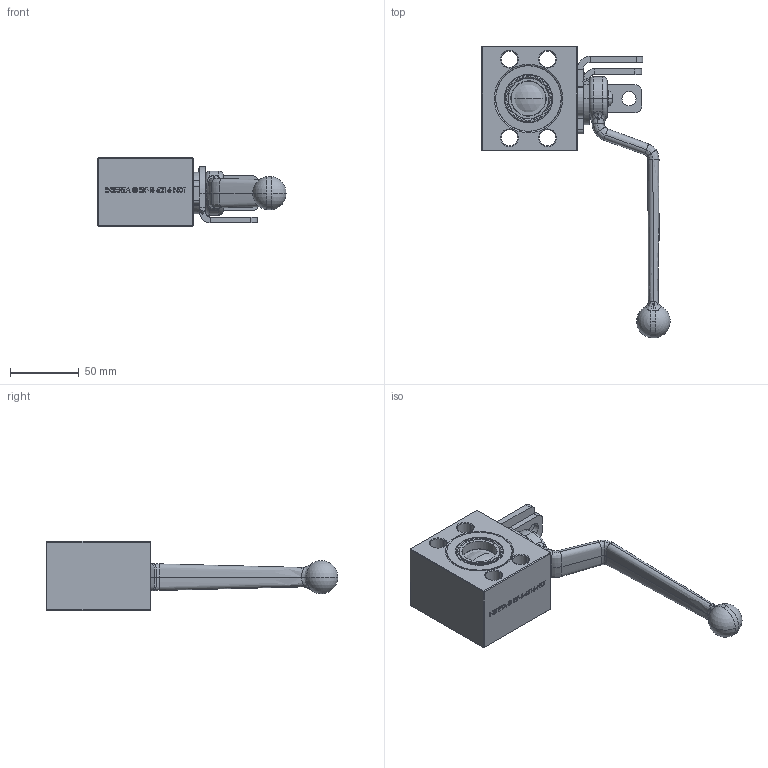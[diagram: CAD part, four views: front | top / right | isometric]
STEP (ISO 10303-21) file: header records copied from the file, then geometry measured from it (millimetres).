
FILE_DESCRIPTION (( 'STEP AP214' ), '1' );
FILE_NAME ('IBF-B-6216-N-D-T-Closed.STEP', '2026-02-16T15:42:22', ( '' ), ( '' ), 'SwSTEP 2.0', 'SolidWorks 2025', '' );
FILE_SCHEMA (( 'AUTOMOTIVE_DESIGN' ));
Length unit declared in the file: inch
Products named in the file (1): IBF-B-6216-N-D-T-Closed
Bounding box: 136.99 x 212.22 x 50.42 mm (x, y, z)
Volume: 270801.8 mm3; surface area: 78799.1 mm2
Topology: 2 solids, 4 shells, 1046 faces, 2844 edges, 1850 vertices
Faces by surface type: plane 495, bspline 200, cylinder 177, torus 68, cone 68, sphere 38
Entity records: 58837 total; most frequent: CARTESIAN_POINT 34335, ORIENTED_EDGE 5656, DIRECTION 4258, EDGE_CURVE 2828, VERTEX_POINT 1842, AXIS2_PLACEMENT_3D 1480, VECTOR 1298, LINE 1298
